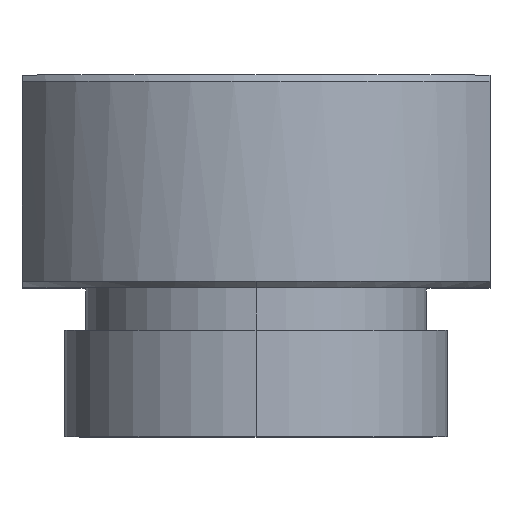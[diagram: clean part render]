
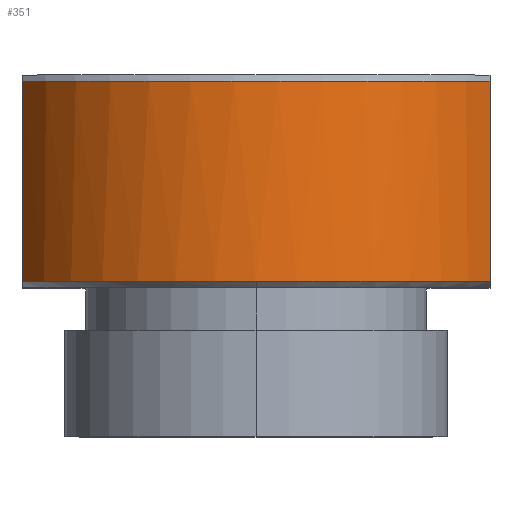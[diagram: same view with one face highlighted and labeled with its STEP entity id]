
A CAD part, top view. The second image highlights one B-rep face of the part: STEP entity #351.
In plain terms, the highlighted cylindrical face has radius 12.5 mm (diameter 25 mm), a partial arc.
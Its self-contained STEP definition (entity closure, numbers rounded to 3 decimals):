
#3 = DIRECTION ( 'NONE',  ( 0., -1., 0. ) ) ;
#49 = DIRECTION ( 'NONE',  ( 0., 1., 0. ) ) ;
#57 = CARTESIAN_POINT ( 'NONE',  ( 0., 0.3, 0. ) ) ;
#65 = CARTESIAN_POINT ( 'NONE',  ( -11., 0.3, 5.937 ) ) ;
#78 = AXIS2_PLACEMENT_3D ( 'NONE', #879, #376, #152 ) ;
#82 = ORIENTED_EDGE ( 'NONE', *, *, #569, .T. ) ;
#151 = LINE ( 'NONE', #339, #530 ) ;
#152 = DIRECTION ( 'NONE',  ( 0., 0., 1. ) ) ;
#177 = CARTESIAN_POINT ( 'NONE',  ( -11., 9.7, 5.937 ) ) ;
#179 = EDGE_CURVE ( 'NONE', #462, #934, #151, .T. ) ;
#182 = FACE_OUTER_BOUND ( 'NONE', #210, .T. ) ;
#210 = EDGE_LOOP ( 'NONE', ( #679, #731, #461, #592, #82 ) ) ;
#227 = DIRECTION ( 'NONE',  ( 0., 0., -1. ) ) ;
#273 = CIRCLE ( 'NONE', #78, 12.5 ) ;
#281 = CARTESIAN_POINT ( 'NONE',  ( 0., 0.3, 12.5 ) ) ;
#283 = AXIS2_PLACEMENT_3D ( 'NONE', #57, #485, #551 ) ;
#305 = LINE ( 'NONE', #433, #666 ) ;
#332 = VERTEX_POINT ( 'NONE', #779 ) ;
#339 = CARTESIAN_POINT ( 'NONE',  ( -11., 10., 5.937 ) ) ;
#351 = ADVANCED_FACE ( 'NONE', ( #182 ), #933, .T. ) ;
#375 = CARTESIAN_POINT ( 'NONE',  ( 0., 9.7, 0. ) ) ;
#376 = DIRECTION ( 'NONE',  ( 0., 1., 0. ) ) ;
#385 = AXIS2_PLACEMENT_3D ( 'NONE', #375, #449, #450 ) ;
#433 = CARTESIAN_POINT ( 'NONE',  ( 11., 10., 5.937 ) ) ;
#449 = DIRECTION ( 'NONE',  ( 0., -1., 0. ) ) ;
#450 = DIRECTION ( 'NONE',  ( 0., 0., 1. ) ) ;
#451 = EDGE_CURVE ( 'NONE', #500, #332, #305, .T. ) ;
#458 = CIRCLE ( 'NONE', #385, 12.5 ) ;
#461 = ORIENTED_EDGE ( 'NONE', *, *, #780, .T. ) ;
#462 = VERTEX_POINT ( 'NONE', #65 ) ;
#485 = DIRECTION ( 'NONE',  ( 0., 1., 0. ) ) ;
#500 = VERTEX_POINT ( 'NONE', #514 ) ;
#506 = EDGE_CURVE ( 'NONE', #462, #664, #273, .T. ) ;
#514 = CARTESIAN_POINT ( 'NONE',  ( 11., 9.7, 5.937 ) ) ;
#530 = VECTOR ( 'NONE', #49, 1000. ) ;
#551 = DIRECTION ( 'NONE',  ( 0., 0., 1. ) ) ;
#569 = EDGE_CURVE ( 'NONE', #500, #934, #458, .T. ) ;
#592 = ORIENTED_EDGE ( 'NONE', *, *, #451, .F. ) ;
#650 = CARTESIAN_POINT ( 'NONE',  ( 0., 10., 0. ) ) ;
#664 = VERTEX_POINT ( 'NONE', #281 ) ;
#666 = VECTOR ( 'NONE', #3, 1000. ) ;
#679 = ORIENTED_EDGE ( 'NONE', *, *, #179, .F. ) ;
#731 = ORIENTED_EDGE ( 'NONE', *, *, #506, .T. ) ;
#760 = CIRCLE ( 'NONE', #283, 12.5 ) ;
#779 = CARTESIAN_POINT ( 'NONE',  ( 11., 0.3, 5.937 ) ) ;
#780 = EDGE_CURVE ( 'NONE', #664, #332, #760, .T. ) ;
#879 = CARTESIAN_POINT ( 'NONE',  ( 0., 0.3, 0. ) ) ;
#919 = AXIS2_PLACEMENT_3D ( 'NONE', #650, #927, #227 ) ;
#927 = DIRECTION ( 'NONE',  ( 0., -1., 0. ) ) ;
#933 = CYLINDRICAL_SURFACE ( 'NONE', #919, 12.5 ) ;
#934 = VERTEX_POINT ( 'NONE', #177 ) ;
